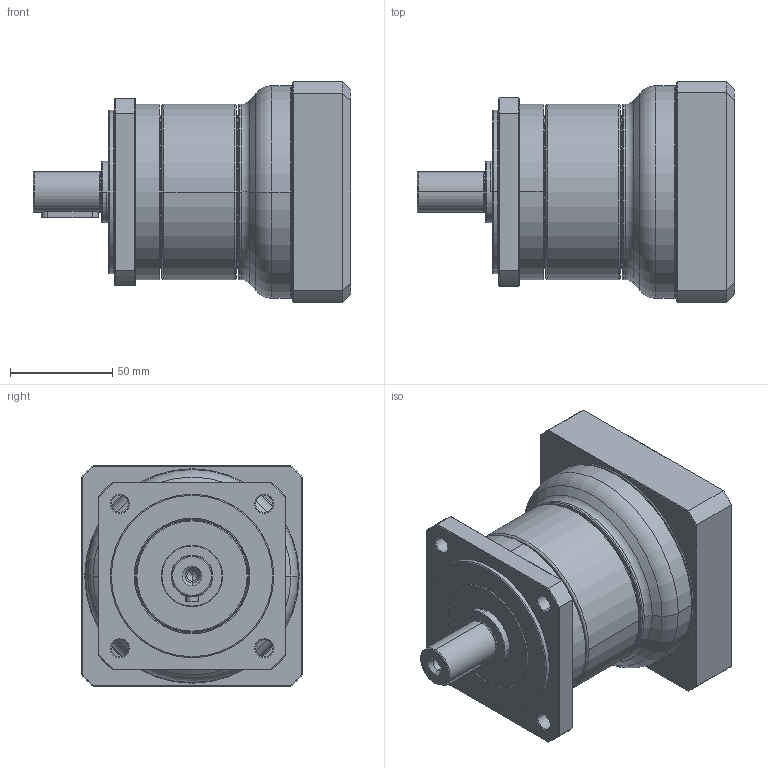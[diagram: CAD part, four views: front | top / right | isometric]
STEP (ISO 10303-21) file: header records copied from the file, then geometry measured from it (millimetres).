
FILE_DESCRIPTION((''),'2;1');
FILE_NAME('PG2-080A_1ST_28_P0411600101_ASM','2016-04-29T',('d01943'),(''),'PRO/ENGINEER BY PARAMETRIC TECHNOLOGY CORPORATION, 2008410','PRO/ENGINEER BY PARAMETRIC TECHNOLOGY CORPORATION, 2008410','');
FILE_SCHEMA(('CONFIG_CONTROL_DESIGN'));
Length unit declared in the file: millimetre
Products named in the file (9): P1326300001; P0250300001; P1324300301; P0350301103; P0941303001; P0503600008; P0411600101; P1702500001; PG2-080A_1ST_28_P0411600101_ASM
Assembly tree (8 placements, depth 2):
  PG2-080A_1ST_28_P0411600101_ASM
    P1326300001
    P0250300001
    P1324300301
    P0350301103
    P0941303001
    P0503600008
    P0411600101
    P1702500001
Bounding box: 155.5 x 108 x 108 mm (x, y, z)
Volume: 673060.9 mm3; surface area: 158006.8 mm2
Topology: 8 solids, 9 shells, 485 faces, 1070 edges, 618 vertices
Faces by surface type: cone 152, cylinder 139, plane 92, torus 90, bspline 12
Entity records: 17904 total; most frequent: CARTESIAN_POINT 6944, DIRECTION 2488, ORIENTED_EDGE 2084, AXIS2_PLACEMENT_3D 1061, EDGE_CURVE 1042, VERTEX_POINT 618, CIRCLE 571, EDGE_LOOP 554
